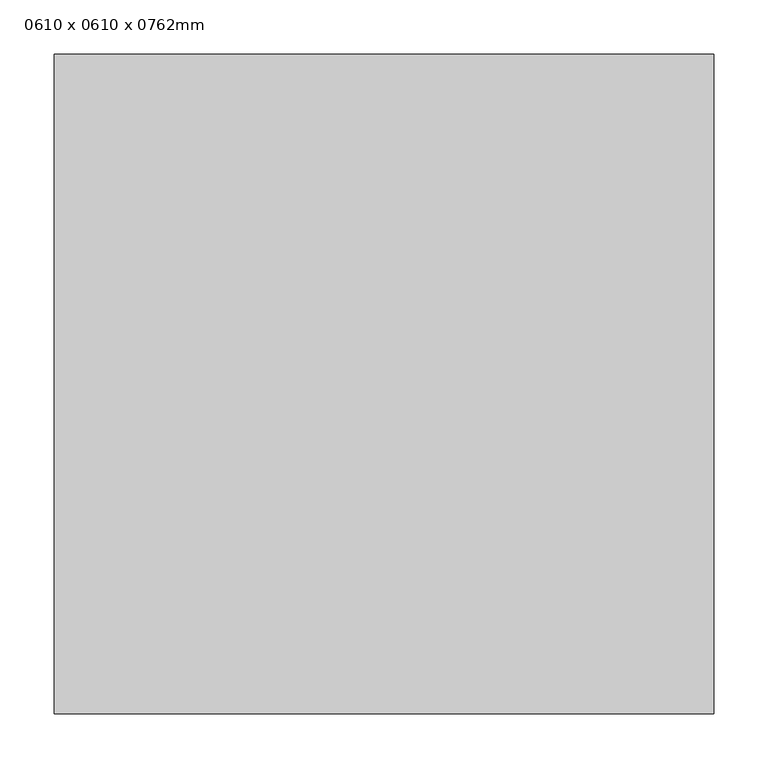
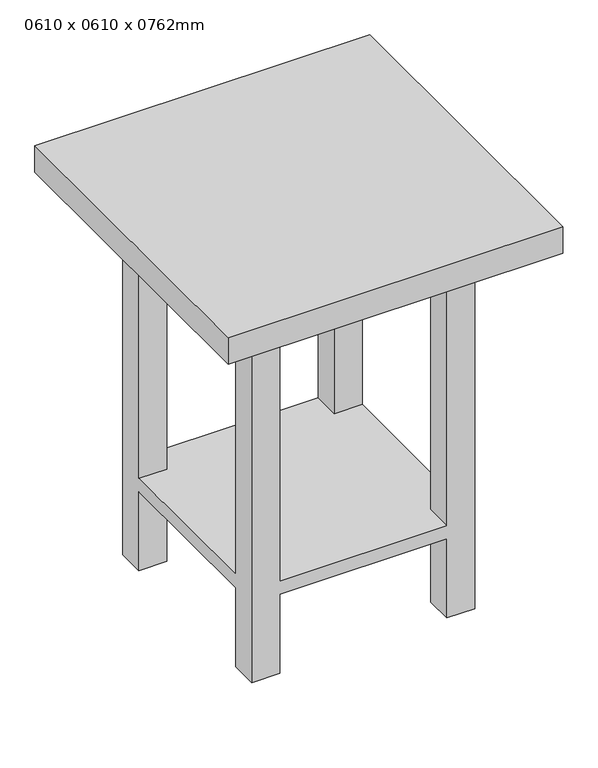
"""IFC4 building model written with IfcOpenShell, lengths in millimetres: furniture geometry, 边桌2 : 0610 x 0610 x 0762mm."""

import ifcopenshell
import ifcopenshell.guid

model = None  # the IFC model being written
_history = None  # IfcOwnerHistory: only IFC2X3 demands one
_inside = {}  # id of a spatial element -> (the spatial element, [elements in it])
_under = {}  # id of a project, library or spatial element -> (it, [spatial elements below it])
_declared = {}  # id of a project -> (the project, [libraries it declares])
_typed = {}  # id of a type object -> (the type object, [elements of that type])
_made_of = {}  # id of a material, layer set ... -> (it, [elements and type objects made of it])


def new_model(schema):
    """Start an empty IFC model of exactly this schema.

    Asked for "IFC4X3", IfcOpenShell would pick the latest addendum, in which some entities
    have other attributes; the version numbers below select the first issue.
    IFC2X3 requires an IfcOwnerHistory on every rooted entity: one is made here for all.
    """
    global model, _history
    if schema == "IFC4X3":
        model = ifcopenshell.file(schema_version=(4, 3, 0, 0))
    else:
        model = ifcopenshell.file(schema=schema)
    _inside.clear()
    _under.clear()
    _declared.clear()
    _typed.clear()
    _made_of.clear()
    _history = None
    if model.schema == "IFC2X3":
        org = make("IfcOrganization", Name="unknown")
        user = make(
            "IfcPersonAndOrganization",
            ThePerson=make("IfcPerson", FamilyName="unknown"),
            TheOrganization=org,
        )
        app = make(
            "IfcApplication",
            ApplicationDeveloper=org,
            Version="unknown",
            ApplicationFullName="unknown",
            ApplicationIdentifier="unknown",
        )
        _history = make(
            "IfcOwnerHistory",
            OwningUser=user,
            OwningApplication=app,
            ChangeAction="ADDED",
            CreationDate=0,
        )
    return model


def make(cls, **values):
    """One entity of the class cls with the attributes given. An attribute that is None is left unset."""
    return model.create_entity(
        cls, **{name: value for name, value in values.items() if value is not None}
    )


def rooted(cls, **values):
    """An entity with a GlobalId (a new one), such as an element, a storey or a relation."""
    return make(cls, GlobalId=ifcopenshell.guid.new(), OwnerHistory=_history, **values)


def si_unit(unit_type, name, prefix=None):
    """IfcSIUnit, for example si_unit("LENGTHUNIT", "METRE", prefix="MILLI")."""
    return make("IfcSIUnit", UnitType=unit_type, Prefix=prefix, Name=name)


def assignment(units):
    """IfcUnitAssignment: the units of a project."""
    return None if units is None else make("IfcUnitAssignment", Units=units)


def point(xyz):
    """IfcCartesianPoint."""
    return None if xyz is None else make("IfcCartesianPoint", Coordinates=xyz)


def direction(xyz):
    """IfcDirection."""
    return None if xyz is None else make("IfcDirection", DirectionRatios=xyz)


def frame(location, z_axis=None, x_axis=None):
    """IfcAxis2Placement3D, a coordinate frame: its origin and axes. An axis left out is left unset."""
    return make(
        "IfcAxis2Placement3D",
        Location=point(location),
        Axis=direction(z_axis),
        RefDirection=direction(x_axis),
    )


def origin():
    """The frame at (0, 0, 0) with its axes left unset."""
    return frame((0.0, 0.0, 0.0))


def place(relative_to, where):
    """IfcLocalPlacement: puts the frame where relative to a parent placement (None: the world)."""
    return make(
        "IfcLocalPlacement", PlacementRelTo=relative_to, RelativePlacement=where
    )


def context(
    kind, dimensions, precision=None, world=None, true_north=None, identifier=None
):
    """IfcGeometricRepresentationContext, for example the 3D "Model" context."""
    return make(
        "IfcGeometricRepresentationContext",
        ContextIdentifier=identifier,
        ContextType=kind,
        CoordinateSpaceDimension=dimensions,
        Precision=precision,
        WorldCoordinateSystem=world,
        TrueNorth=true_north,
    )


def project(units=None, contexts=None):
    """IfcProject with its units and contexts."""
    return rooted(
        "IfcProject",
        Name="project",
        RepresentationContexts=contexts,
        UnitsInContext=assignment(units),
    )


def spatial(cls, under=None, at=None, **own):
    """A site, building, storey or space (cls), placed at a placement, below another one or the project."""
    s = rooted(cls, ObjectPlacement=at, **own)
    if under is not None:
        _under.setdefault(under.id(), (under, []))[1].append(s)
    return s


def polyline(points):
    """IfcPolyline through the points."""
    return make("IfcPolyline", Points=[point(p) for p in points])


def outline(outer, holes=None, kind="AREA"):
    """IfcArbitraryClosedProfileDef: a profile drawn as a closed curve; with holes, ...WithVoids."""
    if holes is None:
        return make("IfcArbitraryClosedProfileDef", ProfileType=kind, OuterCurve=outer)
    return make(
        "IfcArbitraryProfileDefWithVoids",
        ProfileType=kind,
        OuterCurve=outer,
        InnerCurves=holes,
    )


def extrude(swept, where, along, depth):
    """IfcExtrudedAreaSolid: the profile swept, set in the frame where, extruded along a direction by depth."""
    return make(
        "IfcExtrudedAreaSolid",
        SweptArea=swept,
        Position=where,
        ExtrudedDirection=direction(along),
        Depth=depth,
    )


def faces_of(points, faces, orient=None, outer=None):
    """IfcFace entities. A face is a list of loops; a loop is a list of indices into points, from 0.

    orient and outer hold one flag for each loop. By default every Orientation is true, the
    first loop of a face is its IfcFaceOuterBound and the others are IfcFaceBound.
    """
    made = []
    for i, loops in enumerate(faces):
        bounds = []
        for j, loop in enumerate(loops):
            is_outer = j == 0 if outer is None else outer[i][j]
            bounds.append(
                make(
                    "IfcFaceOuterBound" if is_outer else "IfcFaceBound",
                    Bound=make("IfcPolyLoop", Polygon=[points[k] for k in loop]),
                    Orientation=True if orient is None else orient[i][j],
                )
            )
        made.append(make("IfcFace", Bounds=bounds))
    return made


def faceted_brep(points, faces, orient=None, outer=None, voids=None):
    """IfcFacetedBrep: a solid bounded by flat faces; with voids (closed shells), ...WithVoids."""
    shared = [point(p) for p in points]
    hull = make("IfcClosedShell", CfsFaces=faces_of(shared, faces, orient, outer))
    if voids is None:
        return make("IfcFacetedBrep", Outer=hull)
    return make(
        "IfcFacetedBrepWithVoids",
        Outer=hull,
        Voids=[
            make(cls, CfsFaces=faces_of(shared, fs, o, b)) for cls, fs, o, b in voids
        ],
    )


def shape(context_of_items, identifier, shape_type, items):
    """IfcShapeRepresentation: the items that make up one representation, for example the "Body"."""
    return make(
        "IfcShapeRepresentation",
        ContextOfItems=context_of_items,
        RepresentationIdentifier=identifier,
        RepresentationType=shape_type,
        Items=items,
    )


def source(mapping_origin, context_of_items, identifier, shape_type, items):
    """IfcRepresentationMap: a shape defined once, which mapped items show again and again."""
    return make(
        "IfcRepresentationMap",
        MappingOrigin=mapping_origin,
        MappedRepresentation=shape(context_of_items, identifier, shape_type, items),
    )


def transform(
    local_origin,
    x_axis=None,
    y_axis=None,
    z_axis=None,
    scale=None,
    scale2=None,
    scale3=None,
    uniform=True,
):
    """IfcCartesianTransformationOperator3D, or its non-uniform kind. x_axis, y_axis, z_axis: its Axis1, 2, 3."""
    if uniform:
        return make(
            "IfcCartesianTransformationOperator3D",
            Axis1=direction(x_axis),
            Axis2=direction(y_axis),
            LocalOrigin=point(local_origin),
            Scale=scale,
            Axis3=direction(z_axis),
        )
    return make(
        "IfcCartesianTransformationOperator3DnonUniform",
        Axis1=direction(x_axis),
        Axis2=direction(y_axis),
        LocalOrigin=point(local_origin),
        Scale=scale,
        Axis3=direction(z_axis),
        Scale2=scale2,
        Scale3=scale3,
    )


def mapped(mapping_source, mapping_target):
    """IfcMappedItem: shows the shape of a source again, moved by a transform."""
    return make(
        "IfcMappedItem", MappingSource=mapping_source, MappingTarget=mapping_target
    )


def made_of(thing, what):
    """Note that an element or type object is made of a material, layer set ...; save() writes the relation."""
    if what is not None:
        _made_of.setdefault(what.id(), (what, []))[1].append(thing)
    return thing


def element(
    cls,
    number,
    at=None,
    inside=None,
    cuts=None,
    type_object=None,
    material=None,
    context=None,
    identifier="Body",
    shape_type=None,
    held_by="IfcProductDefinitionShape",
    body=None,
    shapes=None,
    **own,
):
    """One element of the class cls, such as IfcWall. Its Tag is "e" and its number.

    at: its placement. inside: the storey or other place that contains it. cuts: it is an
    opening in that element (IfcRelVoidsElement). A single representation is given by context,
    identifier, shape_type and body (its items); several are given by shapes. held_by: the class
    of the entity that holds the representations. save() writes the other relations.
    """
    e = rooted(cls, Tag="e%d" % number, ObjectPlacement=at, **own)
    if body is not None:
        shapes = [shape(context, identifier, shape_type, body)]
    if shapes is not None:
        e.Representation = make(held_by, Representations=shapes)
    if inside is not None:
        _inside.setdefault(inside.id(), (inside, []))[1].append(e)
    if cuts is not None:
        rooted(
            "IfcRelVoidsElement", RelatingBuildingElement=cuts, RelatedOpeningElement=e
        )
    if type_object is not None:
        _typed.setdefault(type_object.id(), (type_object, []))[1].append(e)
    return made_of(e, material)


def aggregate(whole, parts):
    """IfcRelAggregates: a whole, such as a stair, and the parts it consists of."""
    return rooted("IfcRelAggregates", RelatingObject=whole, RelatedObjects=parts)


def save(model, path):
    """Write the relations noted so far, then the file.

    IfcRelAggregates (storeys below a building ...), IfcRelContainedInSpatialStructure (elements
    in a storey), IfcRelDefinesByType, IfcRelAssociatesMaterial and IfcRelDeclares: one each for
    every whole, place, type object, material and project.
    """
    for whole, parts in _under.values():
        aggregate(whole, parts)
    for where, things in _inside.values():
        rooted(
            "IfcRelContainedInSpatialStructure",
            RelatedElements=things,
            RelatingStructure=where,
        )
    for kind, things in _typed.values():
        rooted("IfcRelDefinesByType", RelatedObjects=things, RelatingType=kind)
    for what, things in _made_of.values():
        rooted("IfcRelAssociatesMaterial", RelatedObjects=things, RelatingMaterial=what)
    for by, libraries in _declared.values():
        rooted("IfcRelDeclares", RelatingContext=by, RelatedDefinitions=libraries)
    model.write(path)


def furniture_0610_x_0610_x_0762mm_a39a3fb5(model_context):
    return source(origin(), model_context, "Body", "SolidModel", [
        faceted_brep([(156.1336303, 508.4, 711.2), (105.3336303, 508.4, 711.2), (105.3336303, 457.6, 711.2), (156.1336303, 457.6, 711.2), (156.1336303, 152.4, 711.2), (105.3336303, 152.4, 711.2), (105.3336303, 101.6, 711.2), (156.1336303, 101.6, 711.2), (512.1336303, 508.4, 711.2), (461.3336303, 508.4, 711.2), (461.3336303, 457.6, 711.2), (512.1336303, 457.6, 711.2), (512.1336303, 152.4, 711.2), (461.3336303, 152.4, 711.2), (461.3336303, 101.6, 711.2), (512.1336303, 101.6, 711.2), (156.1336303, 508.4, 0.0), (156.1336303, 457.6, 0.0), (105.3336303, 457.6, 0.0), (105.3336303, 508.4, 0.0), (156.1336303, 152.4, 0.0), (156.1336303, 101.6, 0.0), (105.3336303, 101.6, 0.0), (105.3336303, 152.4, 0.0), (512.1336303, 508.4, 0.0), (512.1336303, 457.6, 0.0), (461.3336303, 457.6, 0.0), (461.3336303, 508.4, 0.0), (512.1336303, 152.4, 0.0), (512.1336303, 101.6, 0.0), (461.3336303, 101.6, 0.0), (461.3336303, 152.4, 0.0), (156.1336303, 508.4, 177.8), (461.3336303, 508.4, 177.8), (461.3336303, 508.4, 152.4), (156.1336303, 508.4, 152.4), (105.3336303, 457.6, 152.4), (105.3336303, 152.4, 152.4), (105.3336303, 152.4, 177.8), (105.3336303, 457.6, 177.8), (156.1336303, 457.6, 177.8), (156.1336303, 457.6, 152.4), (156.1336303, 152.4, 177.8), (156.1336303, 152.4, 152.4), (156.1336303, 101.6, 152.4), (461.3336303, 101.6, 152.4), (461.3336303, 101.6, 177.8), (156.1336303, 101.6, 177.8), (461.3336303, 457.6, 177.8), (461.3336303, 457.6, 152.4), (512.1336303, 457.6, 177.8), (512.1336303, 457.6, 152.4), (512.1336303, 152.4, 177.8), (512.1336303, 152.4, 152.4), (461.3336303, 152.4, 177.8), (461.3336303, 152.4, 152.4)], [[[0, 1, 2, 3]], [[4, 5, 6, 7]], [[8, 9, 10, 11]], [[12, 13, 14, 15]], [[16, 17, 18, 19]], [[20, 21, 22, 23]], [[24, 25, 26, 27]], [[28, 29, 30, 31]], [[1, 0, 32, 33, 9, 8, 24, 27, 34, 35, 16, 19]], [[2, 1, 19, 18, 36, 37, 23, 22, 6, 5, 38, 39]], [[3, 2, 39, 40]], [[18, 17, 41, 36]], [[0, 3, 40, 32]], [[17, 16, 35, 41]], [[5, 4, 42, 38]], [[20, 23, 37, 43]], [[7, 6, 22, 21, 44, 45, 30, 29, 15, 14, 46, 47]], [[4, 7, 47, 42]], [[21, 20, 43, 44]], [[10, 9, 33, 48]], [[27, 26, 49, 34]], [[11, 10, 48, 50]], [[26, 25, 51, 49]], [[8, 11, 50, 52, 12, 15, 29, 28, 53, 51, 25, 24]], [[13, 12, 52, 54]], [[28, 31, 55, 53]], [[14, 13, 54, 46]], [[31, 30, 45, 55]], [[39, 38, 42, 47, 46, 54, 52, 50, 48, 33, 32, 40]], [[35, 34, 49, 51, 53, 55, 45, 44, 43, 37, 36, 41]]]),
        extrude(outline(polyline([(613.7336303, 0.0), (3.7336303, 0.0), (3.7336303, 610.0), (613.7336303, 610.0), (613.7336303, 0.0)])), frame((0.0, 0.0, 711.2), z_axis=(0.0, 0.0, 1.0), x_axis=(1.0, 0.0, 0.0)), (0.0, 0.0, 1.0), 50.8),
    ])


if __name__ == "__main__":
    model = new_model("IFC4")
    model_context = context("Model", 3, world=origin())
    ifc_project = project(units=[si_unit("LENGTHUNIT", "METRE", prefix="MILLI")], contexts=[model_context])
    site = spatial("IfcSite", under=ifc_project)
    building = spatial("IfcBuilding", under=site)
    placement = place(None, origin())
    furniture_0610_x_0610_x_0762mm_shape = furniture_0610_x_0610_x_0762mm_a39a3fb5(model_context)
    element("IfcFurniture", 1, ObjectType="边桌2 : 0610 x 0610 x 0762mm", at=placement, inside=building, context=model_context, shape_type="MappedRepresentation", body=[
        mapped(furniture_0610_x_0610_x_0762mm_shape, transform((0.0, 0.0, 0.0), x_axis=(1.0, 0.0, 0.0), y_axis=(0.0, 1.0, 0.0), z_axis=(0.0, 0.0, 1.0))),
    ])
    save(model, "model.ifc")
